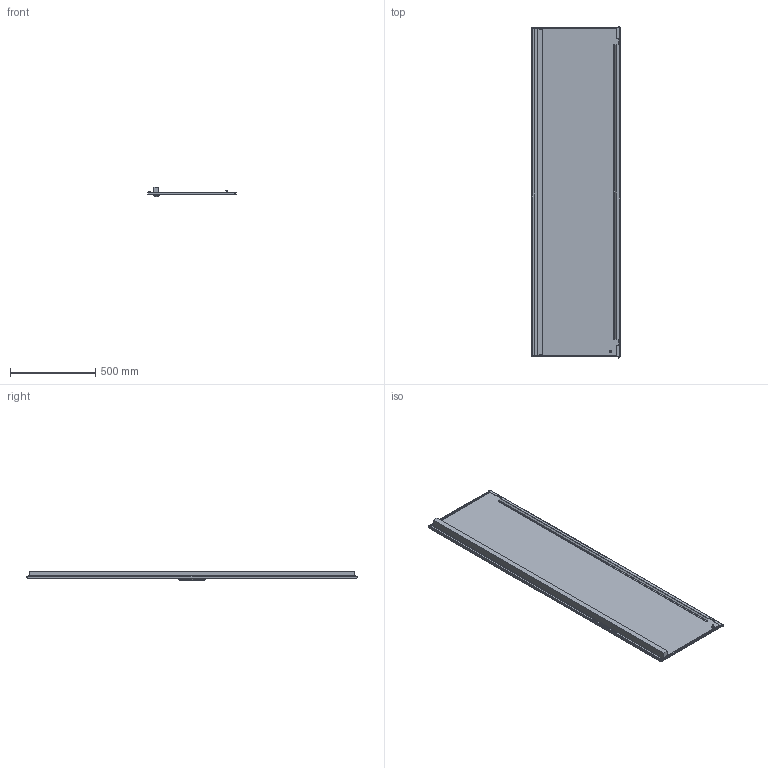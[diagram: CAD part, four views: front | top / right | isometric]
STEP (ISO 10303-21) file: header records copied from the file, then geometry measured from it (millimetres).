
FILE_DESCRIPTION (( 'STEP AP203' ), '1' );
FILE_NAME ('D 200.60 I Äâåðü òåëåêîììóíèêàöèîííàÿ.STEP', '2013-01-11T17:57:59', ( '' ), ( '' ), 'SwSTEP 2.0', 'SolidWorks 2012', '' );
FILE_SCHEMA (( 'CONFIG_CONTROL_DESIGN' ));
Length unit declared in the file: millimetre
Products named in the file (1): D 200.60 I Äâåðü òåëåêîììóíèêàöèîííàÿ
Bounding box: 518 x 1950.5 x 55 mm (x, y, z)
Volume: 4116490.1 mm3; surface area: 2479193.3 mm2
Topology: 3 solids, 3 shells, 175 faces, 406 edges, 226 vertices
Faces by surface type: cylinder 70, plane 65, sphere 24, cone 12, torus 4
Entity records: 4827 total; most frequent: DIRECTION 900, CARTESIAN_POINT 788, ORIENTED_EDGE 772, EDGE_CURVE 386, AXIS2_PLACEMENT_3D 338, VERTEX_POINT 226, VECTOR 224, LINE 224
